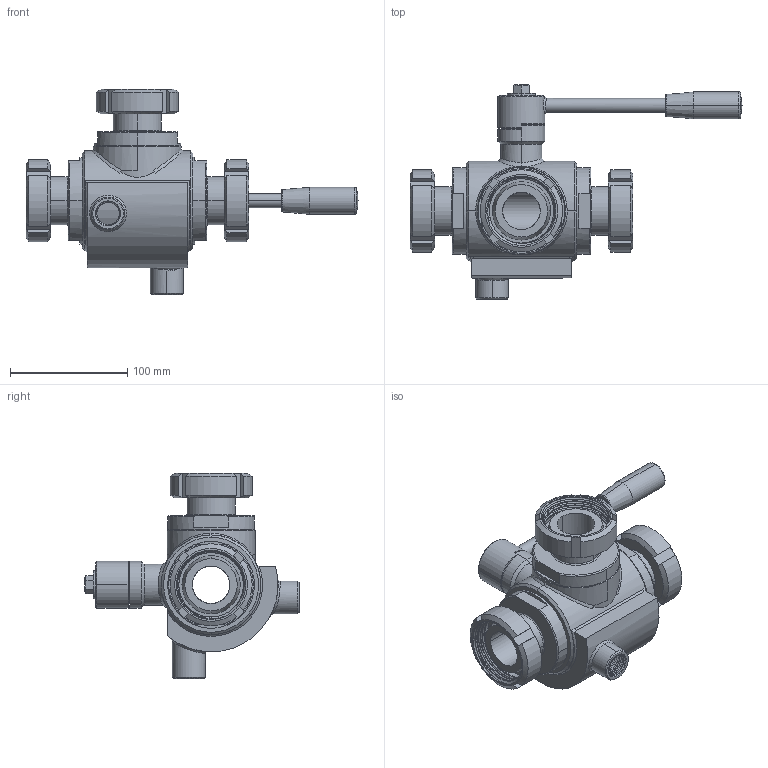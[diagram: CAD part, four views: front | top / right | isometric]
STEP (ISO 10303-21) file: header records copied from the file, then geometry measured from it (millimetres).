
FILE_DESCRIPTION((''),'2;1');
FILE_NAME('300127C63010_SW0001','2026-05-26T15:09:56',('tecnico2'),('CDM Tecnoconsulting'),'CREO PARAMETRIC BY PTC INC, 2024063','CREO PARAMETRIC BY PTC INC, 2024063','');
FILE_SCHEMA(('CONFIG_CONTROL_DESIGN','SHAPE_APPEARANCE_LAYERS_GROUPS'));
Products named in the file (1): 300127C63010_SW0001
Bounding box: 283 x 182.5 x 175 mm (x, y, z)
Volume: 818919 mm3; surface area: 239027.4 mm2
Topology: 1 solids, 1 shells, 1383 faces, 3729 edges, 2397 vertices
Faces by surface type: plane 583, cylinder 289, extrusion 167, cone 158, bspline 128, torus 54, sphere 4
Entity records: 132803 total; most frequent: CARTESIAN_POINT 82807, ORIENTED_EDGE 7422, DIRECTION 5566, PRESENTATION_STYLE_ASSIGNMENT 4704, STYLED_ITEM 3879, CURVE_STYLE 3878, EDGE_CURVE 3711, VERTEX_POINT 2397
